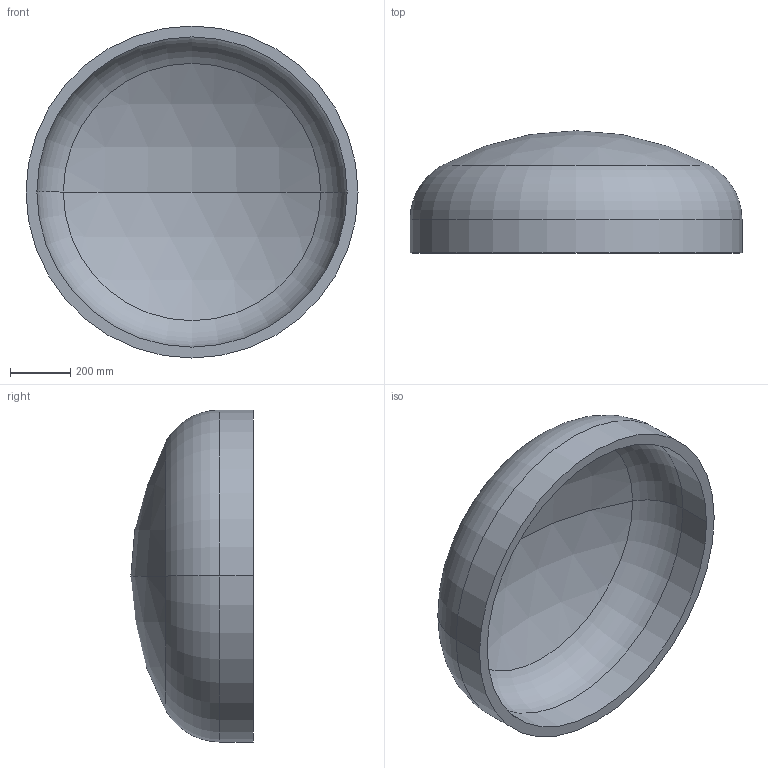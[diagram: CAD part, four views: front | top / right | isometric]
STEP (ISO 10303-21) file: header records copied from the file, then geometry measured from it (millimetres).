
FILE_DESCRIPTION (( 'STEP AP203' ), '1' );
FILE_NAME ('DIN 28013 Korbbogenform_-_Boden DIN 28013 - 1100 x 110 - I - s=36.step', '2016-07-01T09:06:42', ( '' ), ( '' ), 'SwSTEP 2.0', 'SolidWorks 2013', '' );
FILE_SCHEMA (( 'CONFIG_CONTROL_DESIGN' ));
Length unit declared in the file: millimetre
Products named in the file (1): DIN 28013 Korbbogenform_-_Boden DIN 28013 - 1100 x 110 - I - s=36
Bounding box: 1100 x 404.9 x 1100 mm (x, y, z)
Volume: 58673504.5 mm3; surface area: 3382688.2 mm2
Topology: 1 solids, 1 shells, 13 faces, 24 edges, 14 vertices
Faces by surface type: torus 4, cylinder 4, sphere 4, plane 1
Entity records: 407 total; most frequent: DIRECTION 72, CARTESIAN_POINT 52, ORIENTED_EDGE 48, AXIS2_PLACEMENT_3D 34, EDGE_CURVE 24, CIRCLE 20, EDGE_LOOP 14, VERTEX_POINT 14
